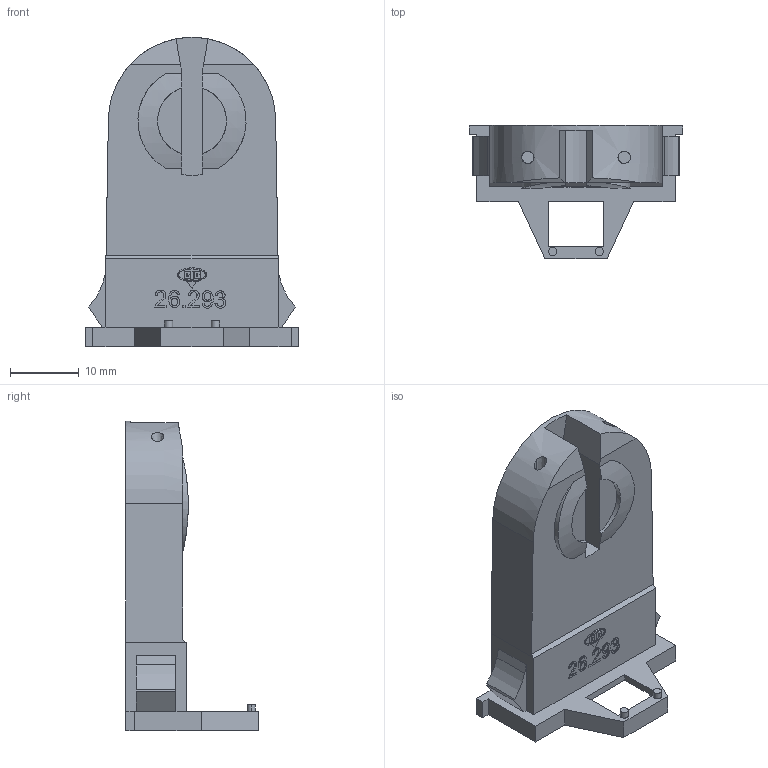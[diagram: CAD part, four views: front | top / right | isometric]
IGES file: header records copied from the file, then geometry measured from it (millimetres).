
Global section: file name: C:\CoreTechnologie\3D-in\00AYN0RY03.igs; native system: CT CoreTechnologie 3D Evolution; preprocessor: 2006; date: 1171020.134008; units: millimetre
Bounding box: 31 x 19.3 x 44.95 mm (x, y, z)
Volume: 8312.3 mm3; surface area: 4334.4 mm2
Topology: 1 solids, 1 shells, 220 faces, 594 edges, 400 vertices
Faces by surface type: plane 133, revolution 76, bspline 11
